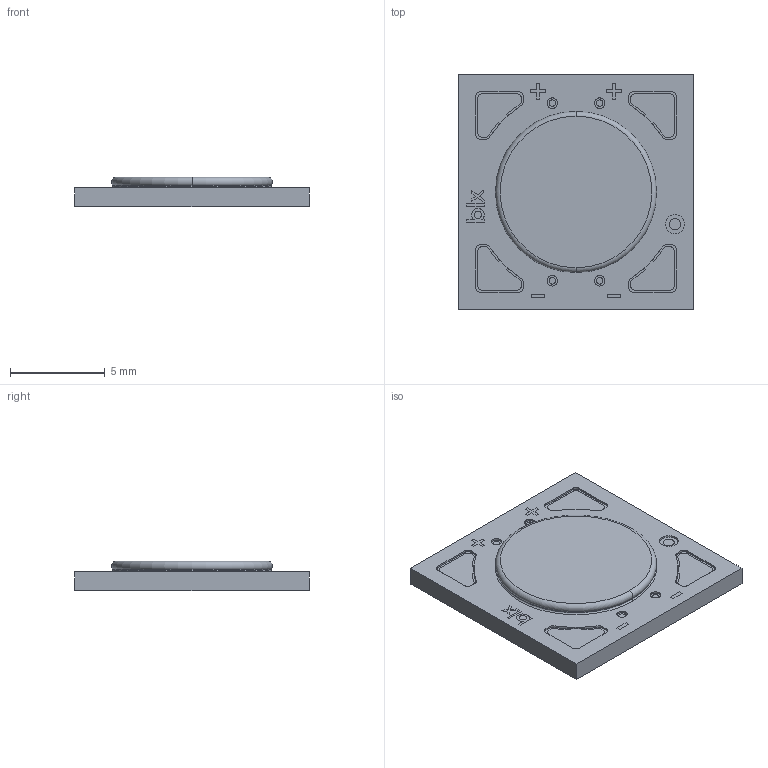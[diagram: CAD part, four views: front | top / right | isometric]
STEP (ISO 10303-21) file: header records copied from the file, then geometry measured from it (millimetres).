
FILE_DESCRIPTION (( 'STEP AP214' ), '1' );
FILE_NAME ('DW6 GEN3 Assemble.STEP', '2025-02-25T05:16:22', ( '' ), ( '' ), 'SwSTEP 2.0', 'SolidWorks 2018', '' );
FILE_SCHEMA (( 'AUTOMOTIVE_DESIGN' ));
Length unit declared in the file: millimetre
Products named in the file (1): DW6 GEN3 Assemble
Bounding box: 12.4 x 12.4 x 1.55 mm (x, y, z)
Volume: 182.5 mm3; surface area: 375 mm2
Topology: 1 solids, 1 shells, 213 faces, 560 edges, 372 vertices
Faces by surface type: plane 127, cylinder 72, bspline 8, torus 6
Entity records: 9165 total; most frequent: CARTESIAN_POINT 1402, DIRECTION 1122, ORIENTED_EDGE 1120, EDGE_CURVE 560, LINE 378, VECTOR 378, AXIS2_PLACEMENT_3D 372, VERTEX_POINT 372
